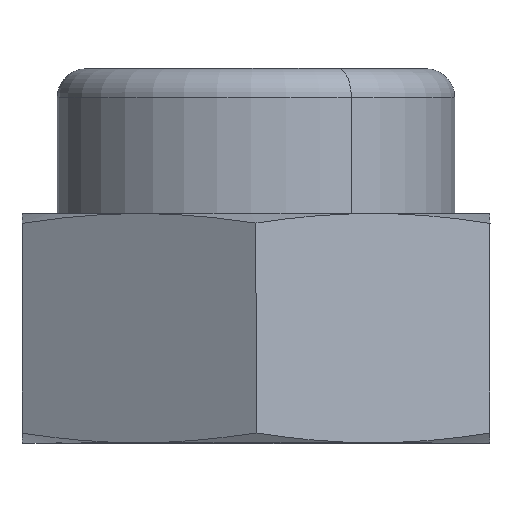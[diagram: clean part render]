
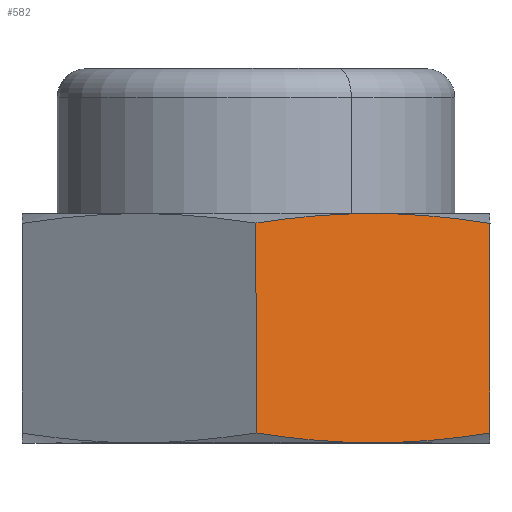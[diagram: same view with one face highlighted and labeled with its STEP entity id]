
A CAD part, top view. The second image highlights one B-rep face of the part: STEP entity #582.
In plain terms, the highlighted planar face has unit normal (0.5, 0, 0.866).
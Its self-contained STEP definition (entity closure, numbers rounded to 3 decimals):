
#308=CARTESIAN_POINT('Vertex',(5.001,0.207,2.886)) ;
#312=CARTESIAN_POINT('Control Point',(2.398,0.001,4.39)) ;
#313=CARTESIAN_POINT('Control Point',(2.992,-0.004,4.047)) ;
#314=CARTESIAN_POINT('Control Point',(3.581,0.026,3.706)) ;
#315=CARTESIAN_POINT('Control Point',(4.211,0.085,3.343)) ;
#316=CARTESIAN_POINT('Control Point',(4.999,0.207,2.888)) ;
#317=CARTESIAN_POINT('Vertex',(2.398,0.001,4.39)) ;
#371=CARTESIAN_POINT('Vertex',(0.001,0.207,5.774)) ;
#409=CARTESIAN_POINT('Control Point',(2.398,0.001,4.39)) ;
#410=CARTESIAN_POINT('Control Point',(1.856,0.004,4.703)) ;
#411=CARTESIAN_POINT('Control Point',(1.309,0.037,5.018)) ;
#412=CARTESIAN_POINT('Control Point',(0.722,0.096,5.357)) ;
#413=CARTESIAN_POINT('Control Point',(0.001,0.207,5.774)) ;
#517=CARTESIAN_POINT('Vertex',(5.001,4.693,2.888)) ;
#520=CARTESIAN_POINT('Line Origine',(5.001,2.45,2.887)) ;
#532=CARTESIAN_POINT('Axis2P3D Location',(5.001,0.,2.887)) ;
#538=CARTESIAN_POINT('Control Point',(2.398,4.899,4.39)) ;
#539=CARTESIAN_POINT('Control Point',(2.405,4.9,4.386)) ;
#540=CARTESIAN_POINT('Control Point',(2.411,4.9,4.382)) ;
#541=CARTESIAN_POINT('Control Point',(2.399,4.9,4.389)) ;
#542=CARTESIAN_POINT('Control Point',(2.667,4.901,4.234)) ;
#543=CARTESIAN_POINT('Control Point',(2.934,4.897,4.08)) ;
#544=CARTESIAN_POINT('Control Point',(3.203,4.886,3.925)) ;
#545=CARTESIAN_POINT('Control Point',(3.694,4.855,3.641)) ;
#546=CARTESIAN_POINT('Control Point',(4.226,4.8,3.334)) ;
#547=CARTESIAN_POINT('Control Point',(4.469,4.77,3.194)) ;
#548=CARTESIAN_POINT('Control Point',(4.725,4.735,3.046)) ;
#549=CARTESIAN_POINT('Control Point',(4.999,4.693,2.888)) ;
#550=CARTESIAN_POINT('Vertex',(2.398,4.899,4.39)) ;
#554=CARTESIAN_POINT('Control Point',(2.398,4.899,4.39)) ;
#555=CARTESIAN_POINT('Control Point',(2.391,4.899,4.393)) ;
#556=CARTESIAN_POINT('Control Point',(2.385,4.899,4.397)) ;
#557=CARTESIAN_POINT('Control Point',(2.397,4.899,4.39)) ;
#558=CARTESIAN_POINT('Control Point',(2.129,4.898,4.545)) ;
#559=CARTESIAN_POINT('Control Point',(1.861,4.889,4.7)) ;
#560=CARTESIAN_POINT('Control Point',(1.587,4.874,4.858)) ;
#561=CARTESIAN_POINT('Control Point',(1.129,4.839,5.122)) ;
#562=CARTESIAN_POINT('Control Point',(0.629,4.782,5.411)) ;
#563=CARTESIAN_POINT('Control Point',(0.43,4.756,5.526)) ;
#564=CARTESIAN_POINT('Control Point',(0.221,4.727,5.646)) ;
#565=CARTESIAN_POINT('Control Point',(0.001,4.693,5.774)) ;
#566=CARTESIAN_POINT('Vertex',(-0.001,4.693,5.774)) ;
#569=CARTESIAN_POINT('Line Origine',(0.,2.45,5.774)) ;
#522=VECTOR('Line Direction',#521,1.) ;
#571=VECTOR('Line Direction',#570,1.) ;
#521=DIRECTION('Vector Direction',(0.,1.,0.)) ;
#533=DIRECTION('Axis2P3D Direction',(-0.5,0.,-0.866)) ;
#534=DIRECTION('Axis2P3D XDirection',(-0.866,0.,0.5)) ;
#570=DIRECTION('Vector Direction',(0.,1.,0.)) ;
#535=AXIS2_PLACEMENT_3D('Plane Axis2P3D',#532,#533,#534) ;
#523=LINE('Line',#520,#522) ;
#572=LINE('Line',#569,#571) ;
#536=PLANE('',#535) ;
#319=EDGE_CURVE('',#318,#309,#311,.T.) ;
#414=EDGE_CURVE('',#318,#372,#408,.T.) ;
#524=EDGE_CURVE('',#309,#518,#523,.T.) ;
#552=EDGE_CURVE('',#551,#518,#537,.T.) ;
#568=EDGE_CURVE('',#551,#567,#553,.T.) ;
#573=EDGE_CURVE('',#372,#567,#572,.T.) ;
#575=ORIENTED_EDGE('',*,*,#319,.T.) ;
#576=ORIENTED_EDGE('',*,*,#524,.T.) ;
#577=ORIENTED_EDGE('',*,*,#552,.F.) ;
#578=ORIENTED_EDGE('',*,*,#568,.T.) ;
#579=ORIENTED_EDGE('',*,*,#573,.F.) ;
#580=ORIENTED_EDGE('',*,*,#414,.F.) ;
#574=EDGE_LOOP('',(#575,#576,#577,#578,#579,#580)) ;
#309=VERTEX_POINT('',#308) ;
#318=VERTEX_POINT('',#317) ;
#372=VERTEX_POINT('',#371) ;
#518=VERTEX_POINT('',#517) ;
#551=VERTEX_POINT('',#550) ;
#567=VERTEX_POINT('',#566) ;
#582=ADVANCED_FACE('Body.2',(#581),#536,.F.) ;
#311=B_SPLINE_CURVE_WITH_KNOTS('',4,(#312,#313,#314,#315,#316),.UNSPECIFIED.,.F.,.U.,(5,5),(0.,54.802),.UNSPECIFIED.) ;
#408=B_SPLINE_CURVE_WITH_KNOTS('',4,(#409,#410,#411,#412,#413),.UNSPECIFIED.,.F.,.U.,(5,5),(0.,50.074),.UNSPECIFIED.) ;
#537=B_SPLINE_CURVE_WITH_KNOTS('',5,(#538,#539,#540,#541,#542,#543,#544,#545,#546,#547,#548,#549),.UNSPECIFIED.,.F.,.U.,(6,3,3,6),(0.,0.038,30.932,54.802),.UNSPECIFIED.) ;
#553=B_SPLINE_CURVE_WITH_KNOTS('',5,(#554,#555,#556,#557,#558,#559,#560,#561,#562,#563,#564,#565),.UNSPECIFIED.,.F.,.U.,(6,3,3,6),(0.,0.038,30.933,50.074),.UNSPECIFIED.) ;
#581=FACE_OUTER_BOUND('',#574,.T.) ;
